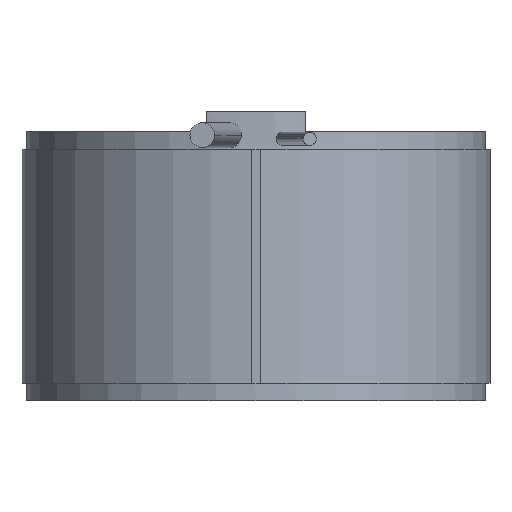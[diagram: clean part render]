
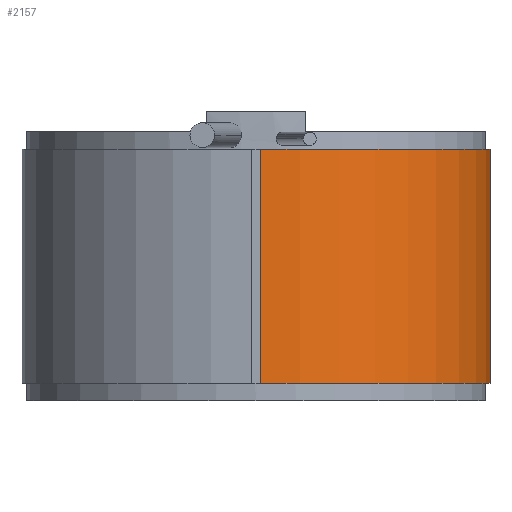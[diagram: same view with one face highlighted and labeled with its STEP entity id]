
A CAD part, front view. The second image highlights one B-rep face of the part: STEP entity #2157.
In plain terms, the highlighted cylindrical face has radius 80 mm (diameter 160 mm), a partial arc.
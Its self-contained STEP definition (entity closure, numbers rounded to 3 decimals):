
#119 = AXIS2_PLACEMENT_3D ( 'NONE', #3742, #3320, #5437 ) ;
#148 = VERTEX_POINT ( 'NONE', #3808 ) ;
#216 = CARTESIAN_POINT ( 'NONE',  ( 136.651, 174.239, 430.605 ) ) ;
#407 = CARTESIAN_POINT ( 'NONE',  ( 66.619, 135.567, 230.615 ) ) ;
#493 = DIRECTION ( 'NONE',  ( 0., 0., -1. ) ) ;
#826 = VERTEX_POINT ( 'NONE', #5390 ) ;
#854 = DIRECTION ( 'NONE',  ( 0., 0., -1. ) ) ;
#942 = EDGE_CURVE ( 'NONE', #826, #148, #1761, .T. ) ;
#1283 = AXIS2_PLACEMENT_3D ( 'NONE', #2531, #4232, #1710 ) ;
#1374 = VERTEX_POINT ( 'NONE', #1961 ) ;
#1573 = EDGE_CURVE ( 'NONE', #1374, #1696, #4041, .T. ) ;
#1696 = VERTEX_POINT ( 'NONE', #5091 ) ;
#1710 = DIRECTION ( 'NONE',  ( -1., 0., 0. ) ) ;
#1750 = EDGE_CURVE ( 'NONE', #1696, #148, #2610, .T. ) ;
#1761 = CIRCLE ( 'NONE', #119, 80. ) ;
#1918 = DIRECTION ( 'NONE',  ( 0., 0., -1. ) ) ;
#1961 = CARTESIAN_POINT ( 'NONE',  ( 136.651, 174.239, 230.615 ) ) ;
#2157 = ADVANCED_FACE ( 'NONE', ( #4701 ), #4680, .T. ) ;
#2345 = AXIS2_PLACEMENT_3D ( 'NONE', #407, #854, #5528 ) ;
#2531 = CARTESIAN_POINT ( 'NONE',  ( 66.619, 135.567, 230.615 ) ) ;
#2533 = ORIENTED_EDGE ( 'NONE', *, *, #942, .F. ) ;
#2608 = EDGE_CURVE ( 'NONE', #1374, #826, #4037, .T. ) ;
#2610 = LINE ( 'NONE', #4310, #3055 ) ;
#2652 = VECTOR ( 'NONE', #1918, 1000. ) ;
#3055 = VECTOR ( 'NONE', #493, 1000. ) ;
#3320 = DIRECTION ( 'NONE',  ( 0., 0., -1. ) ) ;
#3732 = ORIENTED_EDGE ( 'NONE', *, *, #1573, .T. ) ;
#3742 = CARTESIAN_POINT ( 'NONE',  ( 66.619, 135.567, 150.615 ) ) ;
#3808 = CARTESIAN_POINT ( 'NONE',  ( 68.144, 55.582, 150.615 ) ) ;
#4037 = LINE ( 'NONE', #216, #2652 ) ;
#4041 = CIRCLE ( 'NONE', #2345, 80. ) ;
#4123 = ORIENTED_EDGE ( 'NONE', *, *, #2608, .F. ) ;
#4232 = DIRECTION ( 'NONE',  ( 0., 0., 1. ) ) ;
#4310 = CARTESIAN_POINT ( 'NONE',  ( 68.144, 55.582, 430.615 ) ) ;
#4680 = CYLINDRICAL_SURFACE ( 'NONE', #1283, 80. ) ;
#4701 = FACE_OUTER_BOUND ( 'NONE', #4915, .T. ) ;
#4764 = ORIENTED_EDGE ( 'NONE', *, *, #1750, .T. ) ;
#4915 = EDGE_LOOP ( 'NONE', ( #2533, #4123, #3732, #4764 ) ) ;
#5091 = CARTESIAN_POINT ( 'NONE',  ( 68.144, 55.582, 230.615 ) ) ;
#5390 = CARTESIAN_POINT ( 'NONE',  ( 136.651, 174.239, 150.615 ) ) ;
#5437 = DIRECTION ( 'NONE',  ( 1., 0., 0. ) ) ;
#5528 = DIRECTION ( 'NONE',  ( 1., 0., 0. ) ) ;
